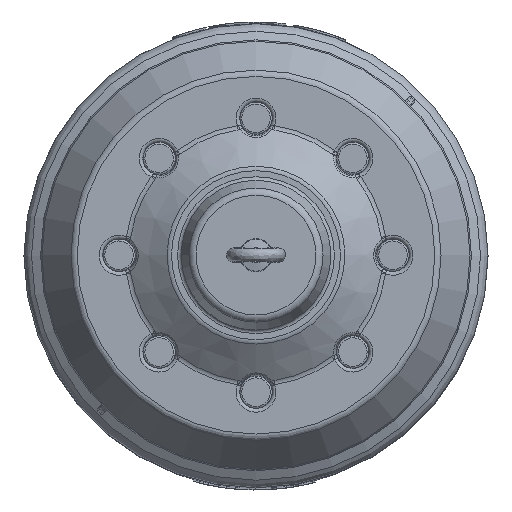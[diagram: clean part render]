
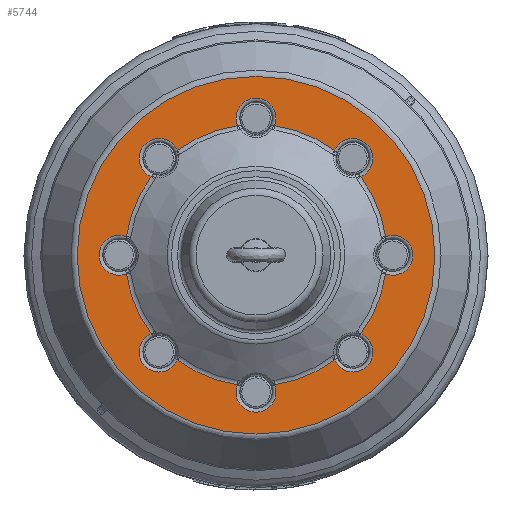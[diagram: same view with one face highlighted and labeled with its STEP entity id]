
A CAD part, top view. The second image highlights one B-rep face of the part: STEP entity #5744.
In plain terms, the highlighted planar face has unit normal (0, 0, 1).
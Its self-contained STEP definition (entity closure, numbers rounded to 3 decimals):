
#5744=ADVANCED_FACE('',(#28835,#28837),#28839,.T.);
#28835=FACE_BOUND('',#28836,.T.);
#28836=EDGE_LOOP('',(#80331));
#28837=FACE_BOUND('',#28838,.T.);
#28838=EDGE_LOOP('',(#80332,#80333,#80334,#80335,#80336,#80337,#80338,#80339,#80340,
#80341,#80342,#80343,#80344,#80345,#80346,#80347));
#28839=PLANE('',#28840);
#28840=AXIS2_PLACEMENT_3D('',#28841,#28842,#28843);
#28841=CARTESIAN_POINT('',(0.,0.,61.247));
#28842=DIRECTION('',(0.,0.,1.));
#28843=DIRECTION('',(-1.,0.,0.));
#80331=ORIENTED_EDGE('',*,*,#85286,.F.);
#80332=ORIENTED_EDGE('',*,*,#85242,.T.);
#80333=ORIENTED_EDGE('',*,*,#85287,.F.);
#80334=ORIENTED_EDGE('',*,*,#85232,.T.);
#80335=ORIENTED_EDGE('',*,*,#85288,.F.);
#80336=ORIENTED_EDGE('',*,*,#85222,.T.);
#80337=ORIENTED_EDGE('',*,*,#85289,.F.);
#80338=ORIENTED_EDGE('',*,*,#85212,.T.);
#80339=ORIENTED_EDGE('',*,*,#85290,.F.);
#80340=ORIENTED_EDGE('',*,*,#85202,.T.);
#80341=ORIENTED_EDGE('',*,*,#85291,.F.);
#80342=ORIENTED_EDGE('',*,*,#85192,.T.);
#80343=ORIENTED_EDGE('',*,*,#85292,.F.);
#80344=ORIENTED_EDGE('',*,*,#85182,.T.);
#80345=ORIENTED_EDGE('',*,*,#85293,.F.);
#80346=ORIENTED_EDGE('',*,*,#85172,.T.);
#80347=ORIENTED_EDGE('',*,*,#85281,.F.);
#85172=EDGE_CURVE('',#90339,#90336,#90340,.T.);
#85182=EDGE_CURVE('',#90355,#90352,#90356,.T.);
#85192=EDGE_CURVE('',#90371,#90368,#90372,.T.);
#85202=EDGE_CURVE('',#90387,#90384,#90388,.T.);
#85212=EDGE_CURVE('',#90403,#90400,#90404,.T.);
#85222=EDGE_CURVE('',#90419,#90416,#90420,.T.);
#85232=EDGE_CURVE('',#90435,#90432,#90436,.T.);
#85242=EDGE_CURVE('',#90324,#90448,#90451,.T.);
#85281=EDGE_CURVE('',#90324,#90336,#90515,.F.);
#85286=EDGE_CURVE('',#90522,#90522,#90523,.T.);
#85287=EDGE_CURVE('',#90435,#90448,#90524,.F.);
#85288=EDGE_CURVE('',#90419,#90432,#90525,.F.);
#85289=EDGE_CURVE('',#90403,#90416,#90526,.F.);
#85290=EDGE_CURVE('',#90387,#90400,#90527,.F.);
#85291=EDGE_CURVE('',#90371,#90384,#90528,.F.);
#85292=EDGE_CURVE('',#90355,#90368,#90529,.F.);
#85293=EDGE_CURVE('',#90339,#90352,#90530,.F.);
#90324=VERTEX_POINT('',#123555);
#90336=VERTEX_POINT('',#123718);
#90339=VERTEX_POINT('',#123732);
#90340=CIRCLE('',#123733,137.64);
#90352=VERTEX_POINT('',#123889);
#90355=VERTEX_POINT('',#123900);
#90356=CIRCLE('',#123901,137.64);
#90368=VERTEX_POINT('',#124057);
#90371=VERTEX_POINT('',#124068);
#90372=CIRCLE('',#124069,137.64);
#90384=VERTEX_POINT('',#124225);
#90387=VERTEX_POINT('',#124236);
#90388=CIRCLE('',#124237,137.64);
#90400=VERTEX_POINT('',#124393);
#90403=VERTEX_POINT('',#124404);
#90404=CIRCLE('',#124405,137.64);
#90416=VERTEX_POINT('',#124561);
#90419=VERTEX_POINT('',#124572);
#90420=CIRCLE('',#124573,137.64);
#90432=VERTEX_POINT('',#124729);
#90435=VERTEX_POINT('',#124740);
#90436=CIRCLE('',#124741,137.64);
#90448=VERTEX_POINT('',#124897);
#90451=CIRCLE('',#124908,137.64);
#90515=CIRCLE('',#125412,21.001);
#90522=VERTEX_POINT('',#125465);
#90523=CIRCLE('',#125466,188.027);
#90524=CIRCLE('',#125470,21.001);
#90525=CIRCLE('',#125474,21.001);
#90526=CIRCLE('',#125478,21.001);
#90527=CIRCLE('',#125482,21.001);
#90528=CIRCLE('',#125486,21.001);
#90529=CIRCLE('',#125490,21.001);
#90530=CIRCLE('',#125494,21.001);
#123555=CARTESIAN_POINT('',(-136.249,19.519,61.247));
#123718=CARTESIAN_POINT('',(-136.249,-19.519,61.247));
#123732=CARTESIAN_POINT('',(-110.144,-82.541,61.247));
#123733=AXIS2_PLACEMENT_3D('',#123734,#123735,#123736);
#123734=CARTESIAN_POINT('',(0.,0.,61.247));
#123735=DIRECTION('',(0.,0.,-1.));
#123736=DIRECTION('',(-0.8,-0.6,0.));
#123889=CARTESIAN_POINT('',(-82.541,-110.144,61.247));
#123900=CARTESIAN_POINT('',(-19.519,-136.249,61.247));
#123901=AXIS2_PLACEMENT_3D('',#123902,#123903,#123904);
#123902=CARTESIAN_POINT('',(0.,0.,61.247));
#123903=DIRECTION('',(0.,0.,-1.));
#123904=DIRECTION('',(-0.142,-0.99,0.));
#124057=CARTESIAN_POINT('',(19.519,-136.249,61.247));
#124068=CARTESIAN_POINT('',(82.541,-110.144,61.247));
#124069=AXIS2_PLACEMENT_3D('',#124070,#124071,#124072);
#124070=CARTESIAN_POINT('',(0.,0.,61.247));
#124071=DIRECTION('',(0.,0.,-1.));
#124072=DIRECTION('',(0.6,-0.8,0.));
#124225=CARTESIAN_POINT('',(110.144,-82.541,61.247));
#124236=CARTESIAN_POINT('',(136.249,-19.519,61.247));
#124237=AXIS2_PLACEMENT_3D('',#124238,#124239,#124240);
#124238=CARTESIAN_POINT('',(0.,0.,61.247));
#124239=DIRECTION('',(0.,0.,-1.));
#124240=DIRECTION('',(0.99,-0.142,0.));
#124393=CARTESIAN_POINT('',(136.249,19.519,61.247));
#124404=CARTESIAN_POINT('',(110.144,82.541,61.247));
#124405=AXIS2_PLACEMENT_3D('',#124406,#124407,#124408);
#124406=CARTESIAN_POINT('',(0.,0.,61.247));
#124407=DIRECTION('',(0.,0.,-1.));
#124408=DIRECTION('',(0.8,0.6,0.));
#124561=CARTESIAN_POINT('',(82.541,110.144,61.247));
#124572=CARTESIAN_POINT('',(19.519,136.249,61.247));
#124573=AXIS2_PLACEMENT_3D('',#124574,#124575,#124576);
#124574=CARTESIAN_POINT('',(0.,0.,61.247));
#124575=DIRECTION('',(0.,0.,-1.));
#124576=DIRECTION('',(0.142,0.99,0.));
#124729=CARTESIAN_POINT('',(-19.519,136.249,61.247));
#124740=CARTESIAN_POINT('',(-82.541,110.144,61.247));
#124741=AXIS2_PLACEMENT_3D('',#124742,#124743,#124744);
#124742=CARTESIAN_POINT('',(0.,0.,61.247));
#124743=DIRECTION('',(0.,0.,-1.));
#124744=DIRECTION('',(-0.6,0.8,0.));
#124897=CARTESIAN_POINT('',(-110.144,82.541,61.247));
#124908=AXIS2_PLACEMENT_3D('',#124909,#124910,#124911);
#124909=CARTESIAN_POINT('',(0.,0.,61.247));
#124910=DIRECTION('',(0.,0.,-1.));
#124911=DIRECTION('',(-0.99,0.142,0.));
#125412=AXIS2_PLACEMENT_3D('',#125413,#125414,#125415);
#125413=CARTESIAN_POINT('',(-144.,0.,61.247));
#125414=DIRECTION('',(0.,0.,-1.));
#125415=DIRECTION('',(0.369,-0.929,0.));
#125465=CARTESIAN_POINT('',(-188.027,0.,61.247));
#125466=AXIS2_PLACEMENT_3D('',#125467,#125468,#125469);
#125467=CARTESIAN_POINT('',(0.,0.,61.247));
#125468=DIRECTION('',(0.,0.,-1.));
#125469=DIRECTION('',(-1.,0.,0.));
#125470=AXIS2_PLACEMENT_3D('',#125471,#125472,#125473);
#125471=CARTESIAN_POINT('',(-101.823,101.823,61.247));
#125472=DIRECTION('',(0.,0.,-1.));
#125473=DIRECTION('',(-0.396,-0.918,0.));
#125474=AXIS2_PLACEMENT_3D('',#125475,#125476,#125477);
#125475=CARTESIAN_POINT('',(0.,144.,61.247));
#125476=DIRECTION('',(0.,0.,-1.));
#125477=DIRECTION('',(-0.929,-0.369,0.));
#125478=AXIS2_PLACEMENT_3D('',#125479,#125480,#125481);
#125479=CARTESIAN_POINT('',(101.823,101.823,61.247));
#125480=DIRECTION('',(0.,0.,-1.));
#125481=DIRECTION('',(-0.918,0.396,0.));
#125482=AXIS2_PLACEMENT_3D('',#125483,#125484,#125485);
#125483=CARTESIAN_POINT('',(144.,0.,61.247));
#125484=DIRECTION('',(0.,0.,-1.));
#125485=DIRECTION('',(-0.369,0.929,0.));
#125486=AXIS2_PLACEMENT_3D('',#125487,#125488,#125489);
#125487=CARTESIAN_POINT('',(101.823,-101.823,61.247));
#125488=DIRECTION('',(0.,0.,-1.));
#125489=DIRECTION('',(0.396,0.918,0.));
#125490=AXIS2_PLACEMENT_3D('',#125491,#125492,#125493);
#125491=CARTESIAN_POINT('',(0.,-144.,61.247));
#125492=DIRECTION('',(0.,0.,-1.));
#125493=DIRECTION('',(0.929,0.369,0.));
#125494=AXIS2_PLACEMENT_3D('',#125495,#125496,#125497);
#125495=CARTESIAN_POINT('',(-101.823,-101.823,61.247));
#125496=DIRECTION('',(0.,0.,-1.));
#125497=DIRECTION('',(0.918,-0.396,0.));
